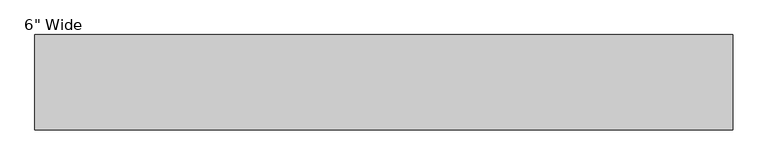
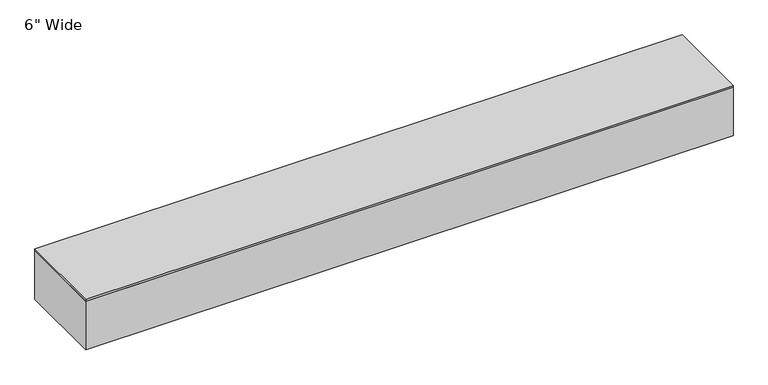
"""IFC4 building model written with IfcOpenShell, lengths in millimetres: proxy geometry."""

from ifc_helpers import new_model, si_unit, frame, origin, origin_with_axes, place, context, project, spatial, polyline, outline, extrude, source, transform, mapped, element, save


def proxy_0430b9dc(model_context):
    return source(origin(), model_context, "Body", "SweptSolid", [
        extrude(outline(polyline([(1117.6, 76.2), (1117.6, -76.2), (0.0, -76.2), (0.0, 76.2), (1117.6, 76.2)])), frame((0.0, 0.0, 88.9), z_axis=(0.0, 0.0, 1.0), x_axis=(1.0, 0.0, 0.0)), (0.0, 0.0, 1.0), 3.175),
        extrude(outline(polyline([(1117.6, 76.2), (1117.6, -76.2), (0.0, -76.2), (0.0, 76.2), (1117.6, 76.2)])), origin_with_axes(), (0.0, 0.0, 1.0), 88.9),
    ])


if __name__ == "__main__":
    model = new_model("IFC4")
    model_context = context("Model", 3, world=origin())
    ifc_project = project(units=[si_unit("LENGTHUNIT", "METRE", prefix="MILLI")], contexts=[model_context])
    site = spatial("IfcSite", under=ifc_project)
    building = spatial("IfcBuilding", under=site)
    placement = place(None, origin())
    proxy_shape = proxy_0430b9dc(model_context)
    element("IfcBuildingElementProxy", 1, Name="Duct-Wallduct-Wiremold : 6\" Wide", ObjectType="Duct-Wallduct-Wiremold : 6\" Wide", at=placement, inside=building, context=model_context, shape_type="MappedRepresentation", body=[
        mapped(proxy_shape, transform((0.0, 0.0, 0.0), x_axis=(1.0, 0.0, 0.0), y_axis=(0.0, 1.0, 0.0), z_axis=(0.0, 0.0, 1.0))),
    ])
    save(model, "model.ifc")
